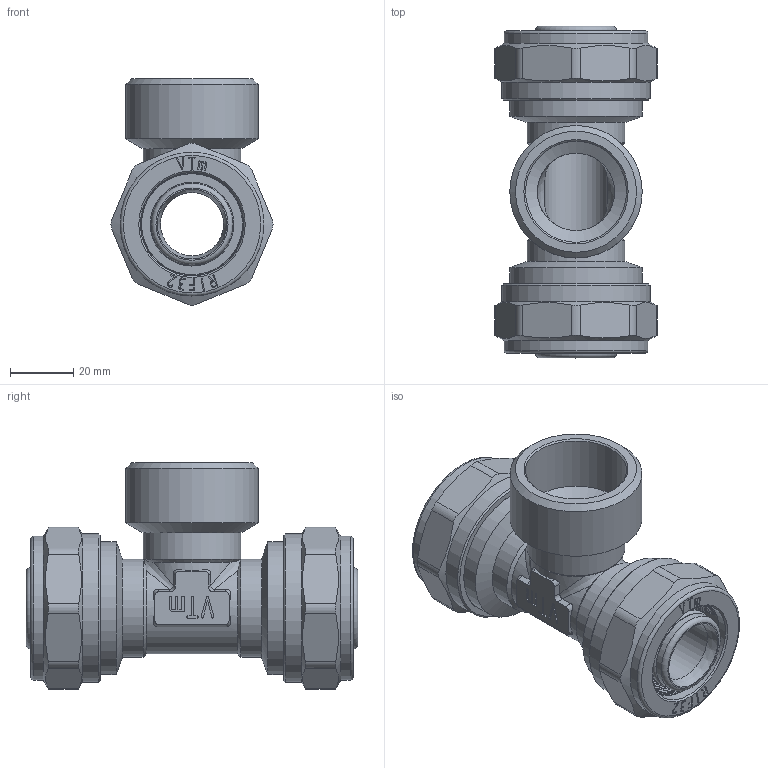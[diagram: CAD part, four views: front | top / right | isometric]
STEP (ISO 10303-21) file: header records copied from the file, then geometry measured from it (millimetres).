
FILE_DESCRIPTION(('STEP AP203'), '1');
FILE_NAME('VTm.333.N.320732', '', ('UNSPECIFIED'), ('UNSPECIFIED'), 'C3D Converter', 'C3D Toolkit', '');
FILE_SCHEMA(('CONFIG_CONTROL_DESIGN'));
Length unit declared in the file: millimetre
Products named in the file (1): ВР.302635.083.000 СБ
Bounding box: 51.3 x 105 x 71.65 mm (x, y, z)
Volume: 91125.6 mm3; surface area: 48985.7 mm2
Topology: 1 solids, 1 shells, 778 faces, 2139 edges, 1411 vertices
Faces by surface type: extrusion 336, plane 249, cylinder 96, torus 58, cone 33, bspline 4, sphere 2
Full cylindrical faces by diameter (mm): 20 x1, 22.8 x8, 24.5 x1, 25.8 x10, 26 x2, 31 x3, 32 x1, 32.1 x2, 32.2 x2, 32.7 x2, 40.376 x2, 41.91 x1, 42 x2, 45.5 x2, 47 x2
Entity records: 29362 total; most frequent: CARTESIAN_POINT 11614, ORIENTED_EDGE 4090, DIRECTION 2546, EDGE_CURVE 2045, VERTEX_POINT 1411, VECTOR 1240, B_SPLINE_CURVE_WITH_KNOTS 1201, EDGE_LOOP 924
